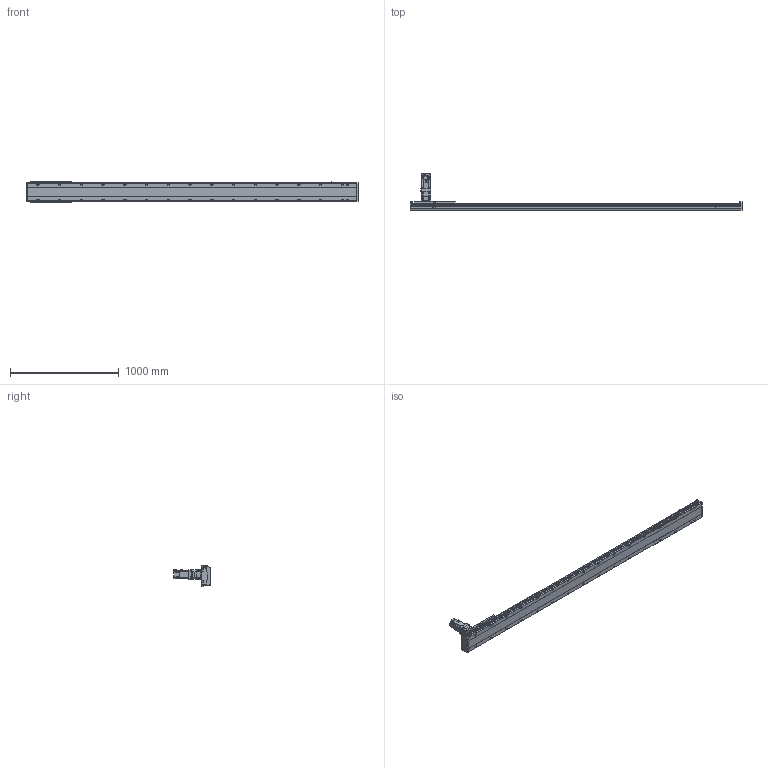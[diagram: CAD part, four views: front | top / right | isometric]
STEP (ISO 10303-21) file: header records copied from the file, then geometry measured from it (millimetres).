
FILE_DESCRIPTION(/* description */ ('STEP AP203'),/* implementation_level */ '2;1');
FILE_NAME(/* name */ 'SHS17A-L13-S2600-BC-T75-C1-N(0)',/* time_stamp */ '2023-03-27T08:58:15+02:00',/* author */ ('License CC BY-ND 4.0'),/* organization */ ('CADENAS'),/* preprocessor_version */ 'ST-DEVELOPER v19.3',/* originating_system */ 'PARTsolutions',/* authorisation */ ' ');
FILE_SCHEMA (('CONFIG_CONTROL_DESIGN'));
Length unit declared in the file: millimetre
Products named in the file (7): SHS17A-L13-S2600-BC-T75-C1-N(0); PSC140-sensor; SHS17A-S2600(0)_body2; T75-p1; SHS17A-S2600_body3; SHS17A-S2600-C1(0)_slider; SHS17A-S2600-C1(0)_body
Assembly tree (13 placements, depth 2):
  SHS17A-L13-S2600-BC-T75-C1-N(0)
    PSC140-sensor  x3
    SHS17A-S2600(0)_body2  x6
    T75-p1
    SHS17A-S2600_body3
    SHS17A-S2600-C1(0)_slider
    SHS17A-S2600-C1(0)_body
Bounding box: 3054 x 333.8 x 193.4 mm (x, y, z)
Volume: 21757211.6 mm3; surface area: 2527321.1 mm2
Topology: 13 solids, 13 shells, 2168 faces, 5511 edges, 3590 vertices
Faces by surface type: plane 1377, cylinder 702, cone 86, torus 3
Full cylindrical faces by diameter (mm): 2.8 x3, 4.134 x24, 4.5 x2, 4.6 x3, 4.917 x15, 5.5 x48, 6 x7, 6.5 x24, 6.647 x40, 6.8 x9, 8 x3, 8.5 x32, 10 x28, 11 x4, 14 x32, 22 x1, 24 x1, 24.2 x1, 28 x1, 28.2 x1, 28.8 x1, 29.8 x1, 48.542 x1, 68 x1, 70 x1, 78 x1, 80 x2
Entity records: 41780 total; most frequent: CARTESIAN_POINT 8168, DIRECTION 6823, ORIENTED_EDGE 6572, EDGE_CURVE 3286, AXIS2_PLACEMENT_3D 2410, VERTEX_POINT 2311, LINE 2003, VECTOR 2003
